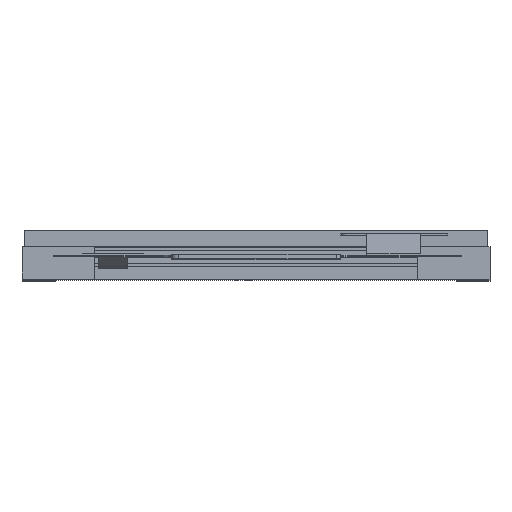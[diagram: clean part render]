
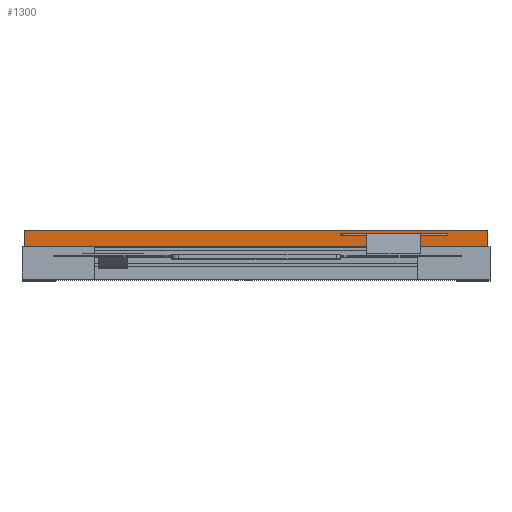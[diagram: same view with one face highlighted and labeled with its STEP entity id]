
A CAD part, top view. The second image highlights one B-rep face of the part: STEP entity #1300.
In plain terms, the highlighted planar face has unit normal (0, 0, 1).
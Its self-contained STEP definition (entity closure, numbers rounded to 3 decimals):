
#28 = DIRECTION ( 'NONE',  ( 0., 0., 1. ) ) ;
#97 = EDGE_CURVE ( 'NONE', #1624, #805, #1096, .T. ) ;
#133 = CARTESIAN_POINT ( 'NONE',  ( 0., 3.37, 22.975 ) ) ;
#235 = DIRECTION ( 'NONE',  ( 0., -1., 0. ) ) ;
#237 = VERTEX_POINT ( 'NONE', #1424 ) ;
#291 = FACE_OUTER_BOUND ( 'NONE', #2917, .T. ) ;
#400 = CARTESIAN_POINT ( 'NONE',  ( 17.15, 3., 22.975 ) ) ;
#402 = LINE ( 'NONE', #1782, #1376 ) ;
#414 = CARTESIAN_POINT ( 'NONE',  ( 6.28, 3.37, 22.975 ) ) ;
#456 = CARTESIAN_POINT ( 'NONE',  ( -12., 2.4, 22.975 ) ) ;
#545 = CARTESIAN_POINT ( 'NONE',  ( 0., 3.25, 22.975 ) ) ;
#547 = VECTOR ( 'NONE', #1409, 1000. ) ;
#552 = VERTEX_POINT ( 'NONE', #2618 ) ;
#630 = ORIENTED_EDGE ( 'NONE', *, *, #784, .F. ) ;
#663 = ORIENTED_EDGE ( 'NONE', *, *, #1924, .F. ) ;
#732 = VECTOR ( 'NONE', #3453, 1000. ) ;
#784 = EDGE_CURVE ( 'NONE', #2387, #2069, #1247, .T. ) ;
#788 = CARTESIAN_POINT ( 'NONE',  ( -17.15, 3.6, 22.975 ) ) ;
#805 = VERTEX_POINT ( 'NONE', #2270 ) ;
#825 = CARTESIAN_POINT ( 'NONE',  ( 14.2, 3., 22.975 ) ) ;
#859 = FACE_BOUND ( 'NONE', #1192, .T. ) ;
#884 = CARTESIAN_POINT ( 'NONE',  ( 0., 3.6, 22.975 ) ) ;
#899 = VECTOR ( 'NONE', #235, 1000. ) ;
#964 = EDGE_CURVE ( 'NONE', #552, #2088, #2132, .T. ) ;
#980 = ORIENTED_EDGE ( 'NONE', *, *, #2225, .T. ) ;
#1064 = DIRECTION ( 'NONE',  ( 0., 1., 0. ) ) ;
#1095 = PLANE ( 'NONE',  #2799 ) ;
#1096 = LINE ( 'NONE', #1937, #547 ) ;
#1112 = CARTESIAN_POINT ( 'NONE',  ( 0., 3., 22.975 ) ) ;
#1168 = LINE ( 'NONE', #884, #2979 ) ;
#1192 = EDGE_LOOP ( 'NONE', ( #2897, #980, #1490, #1627 ) ) ;
#1220 = VECTOR ( 'NONE', #2005, 1000. ) ;
#1230 = CARTESIAN_POINT ( 'NONE',  ( -17.15, 2.4, 22.975 ) ) ;
#1247 = LINE ( 'NONE', #400, #1220 ) ;
#1300 = ADVANCED_FACE ( 'NONE', ( #859, #291 ), #1095, .T. ) ;
#1327 = CARTESIAN_POINT ( 'NONE',  ( 6.28, 3., 22.975 ) ) ;
#1334 = EDGE_CURVE ( 'NONE', #2322, #1659, #3243, .T. ) ;
#1376 = VECTOR ( 'NONE', #2810, 1000. ) ;
#1409 = DIRECTION ( 'NONE',  ( 1., 0., 0. ) ) ;
#1424 = CARTESIAN_POINT ( 'NONE',  ( 14.2, 3.25, 22.975 ) ) ;
#1462 = VECTOR ( 'NONE', #2273, 1000. ) ;
#1490 = ORIENTED_EDGE ( 'NONE', *, *, #964, .T. ) ;
#1496 = EDGE_CURVE ( 'NONE', #1659, #1624, #2222, .T. ) ;
#1534 = LINE ( 'NONE', #133, #1462 ) ;
#1624 = VERTEX_POINT ( 'NONE', #456 ) ;
#1627 = ORIENTED_EDGE ( 'NONE', *, *, #1628, .T. ) ;
#1628 = EDGE_CURVE ( 'NONE', #2088, #2914, #1534, .T. ) ;
#1659 = VERTEX_POINT ( 'NONE', #1230 ) ;
#1782 = CARTESIAN_POINT ( 'NONE',  ( 0., 2.4, 22.975 ) ) ;
#1835 = ORIENTED_EDGE ( 'NONE', *, *, #1334, .T. ) ;
#1924 = EDGE_CURVE ( 'NONE', #2322, #2387, #1168, .T. ) ;
#1937 = CARTESIAN_POINT ( 'NONE',  ( 0., 2.4, 22.975 ) ) ;
#1960 = DIRECTION ( 'NONE',  ( 1., 0., 0. ) ) ;
#2005 = DIRECTION ( 'NONE',  ( 0., -1., 0. ) ) ;
#2053 = CARTESIAN_POINT ( 'NONE',  ( 17.15, 2.4, 22.975 ) ) ;
#2069 = VERTEX_POINT ( 'NONE', #2053 ) ;
#2088 = VERTEX_POINT ( 'NONE', #414 ) ;
#2132 = LINE ( 'NONE', #1327, #3462 ) ;
#2144 = DIRECTION ( 'NONE',  ( 1., 0., 0. ) ) ;
#2222 = LINE ( 'NONE', #2239, #2750 ) ;
#2225 = EDGE_CURVE ( 'NONE', #237, #552, #2957, .T. ) ;
#2239 = CARTESIAN_POINT ( 'NONE',  ( 0., 2.4, 22.975 ) ) ;
#2270 = CARTESIAN_POINT ( 'NONE',  ( 12., 2.4, 22.975 ) ) ;
#2273 = DIRECTION ( 'NONE',  ( 1., 0., 0. ) ) ;
#2292 = EDGE_CURVE ( 'NONE', #2914, #237, #2642, .T. ) ;
#2322 = VERTEX_POINT ( 'NONE', #788 ) ;
#2387 = VERTEX_POINT ( 'NONE', #3193 ) ;
#2388 = ORIENTED_EDGE ( 'NONE', *, *, #1496, .T. ) ;
#2397 = ORIENTED_EDGE ( 'NONE', *, *, #97, .T. ) ;
#2418 = DIRECTION ( 'NONE',  ( 0., -1., 0. ) ) ;
#2618 = CARTESIAN_POINT ( 'NONE',  ( 6.28, 3.25, 22.975 ) ) ;
#2642 = LINE ( 'NONE', #825, #3037 ) ;
#2750 = VECTOR ( 'NONE', #3288, 1000. ) ;
#2799 = AXIS2_PLACEMENT_3D ( 'NONE', #1112, #28, #2144 ) ;
#2810 = DIRECTION ( 'NONE',  ( 1., 0., 0. ) ) ;
#2812 = EDGE_CURVE ( 'NONE', #805, #2069, #402, .T. ) ;
#2897 = ORIENTED_EDGE ( 'NONE', *, *, #2292, .T. ) ;
#2914 = VERTEX_POINT ( 'NONE', #3108 ) ;
#2917 = EDGE_LOOP ( 'NONE', ( #663, #1835, #2388, #2397, #3053, #630 ) ) ;
#2957 = LINE ( 'NONE', #545, #732 ) ;
#2979 = VECTOR ( 'NONE', #1960, 1000. ) ;
#3037 = VECTOR ( 'NONE', #2418, 1000. ) ;
#3053 = ORIENTED_EDGE ( 'NONE', *, *, #2812, .T. ) ;
#3108 = CARTESIAN_POINT ( 'NONE',  ( 14.2, 3.37, 22.975 ) ) ;
#3193 = CARTESIAN_POINT ( 'NONE',  ( 17.15, 3.6, 22.975 ) ) ;
#3194 = CARTESIAN_POINT ( 'NONE',  ( -17.15, 3., 22.975 ) ) ;
#3243 = LINE ( 'NONE', #3194, #899 ) ;
#3288 = DIRECTION ( 'NONE',  ( 1., 0., 0. ) ) ;
#3453 = DIRECTION ( 'NONE',  ( -1., 0., 0. ) ) ;
#3462 = VECTOR ( 'NONE', #1064, 1000. ) ;
